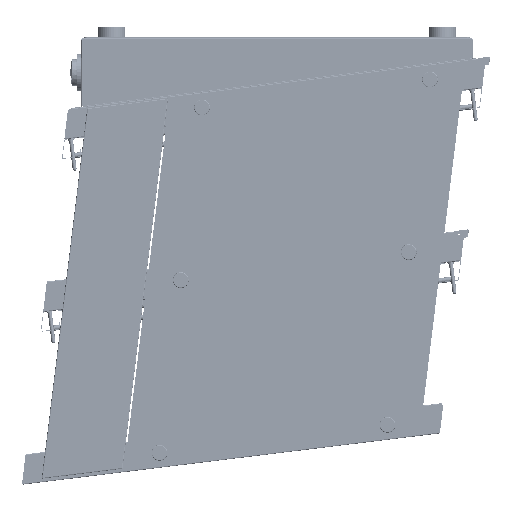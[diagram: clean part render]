
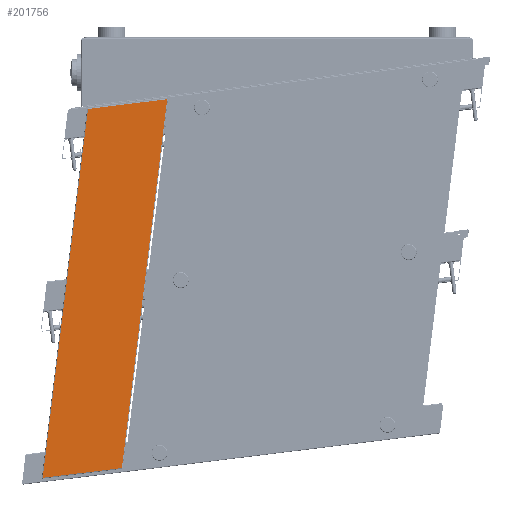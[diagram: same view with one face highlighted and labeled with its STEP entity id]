
A CAD part, left-side view. The second image highlights one B-rep face of the part: STEP entity #201756.
In plain terms, the highlighted planar face has unit normal (-1, 0, 0).
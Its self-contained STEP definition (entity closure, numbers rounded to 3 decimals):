
#494 = PLANE ( 'NONE',  #171589 ) ;
#22047 = VECTOR ( 'NONE', #71997, 1000. ) ;
#22658 = VERTEX_POINT ( 'NONE', #306548 ) ;
#26579 = VERTEX_POINT ( 'NONE', #195538 ) ;
#31545 = VECTOR ( 'NONE', #195509, 1000. ) ;
#35988 = EDGE_LOOP ( 'NONE', ( #49854, #315368, #358435, #178160 ) ) ;
#49854 = ORIENTED_EDGE ( 'NONE', *, *, #158906, .F. ) ;
#58711 = VERTEX_POINT ( 'NONE', #146617 ) ;
#71997 = DIRECTION ( 'NONE',  ( 0., 0.993, -0.122 ) ) ;
#90301 = LINE ( 'NONE', #151426, #109140 ) ;
#109140 = VECTOR ( 'NONE', #403964, 1000. ) ;
#146617 = CARTESIAN_POINT ( 'NONE',  ( -553.1, -130.274, -40.382 ) ) ;
#151426 = CARTESIAN_POINT ( 'NONE',  ( -553.1, 57.756, -612.159 ) ) ;
#158906 = EDGE_CURVE ( 'NONE', #58711, #22658, #346736, .T. ) ;
#169235 = EDGE_CURVE ( 'NONE', #184762, #26579, #90301, .T. ) ;
#171589 = AXIS2_PLACEMENT_3D ( 'NONE', #322415, #196077, #261414 ) ;
#178160 = ORIENTED_EDGE ( 'NONE', *, *, #282934, .T. ) ;
#184762 = VERTEX_POINT ( 'NONE', #386262 ) ;
#191375 = CARTESIAN_POINT ( 'NONE',  ( -553.1, 57.756, -612.159 ) ) ;
#195509 = DIRECTION ( 'NONE',  ( 0., -0.993, 0.122 ) ) ;
#195538 = CARTESIAN_POINT ( 'NONE',  ( -553.1, -10.646, -55.07 ) ) ;
#196077 = DIRECTION ( 'NONE',  ( 1., 0., 0. ) ) ;
#201756 = ADVANCED_FACE ( 'NONE', ( #229803 ), #494, .F. ) ;
#216303 = DIRECTION ( 'NONE',  ( 0., 0.122, -0.993 ) ) ;
#222493 = CARTESIAN_POINT ( 'NONE',  ( -553.1, -130.274, -40.382 ) ) ;
#229803 = FACE_OUTER_BOUND ( 'NONE', #35988, .T. ) ;
#246523 = VECTOR ( 'NONE', #216303, 1000. ) ;
#261414 = DIRECTION ( 'NONE',  ( 0., -0.122, -0.993 ) ) ;
#282934 = EDGE_CURVE ( 'NONE', #184762, #22658, #292401, .T. ) ;
#287684 = EDGE_CURVE ( 'NONE', #58711, #26579, #330751, .T. ) ;
#292401 = LINE ( 'NONE', #191375, #31545 ) ;
#297157 = CARTESIAN_POINT ( 'NONE',  ( -553.1, -130.274, -40.382 ) ) ;
#306548 = CARTESIAN_POINT ( 'NONE',  ( -553.1, -61.873, -597.471 ) ) ;
#315368 = ORIENTED_EDGE ( 'NONE', *, *, #287684, .T. ) ;
#322415 = CARTESIAN_POINT ( 'NONE',  ( -553.1, -1.908, -606.042 ) ) ;
#330751 = LINE ( 'NONE', #297157, #22047 ) ;
#346736 = LINE ( 'NONE', #222493, #246523 ) ;
#358435 = ORIENTED_EDGE ( 'NONE', *, *, #169235, .F. ) ;
#386262 = CARTESIAN_POINT ( 'NONE',  ( -553.1, 57.756, -612.159 ) ) ;
#403964 = DIRECTION ( 'NONE',  ( 0., -0.122, 0.993 ) ) ;
